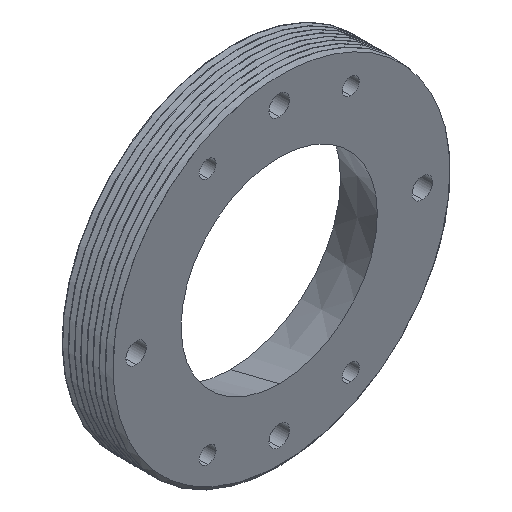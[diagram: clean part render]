
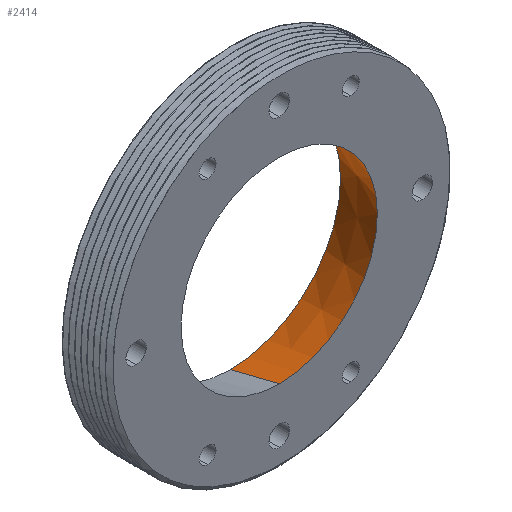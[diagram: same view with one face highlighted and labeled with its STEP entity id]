
A CAD part, isometric view. The second image highlights one B-rep face of the part: STEP entity #2414.
In plain terms, the highlighted conical face has half-angle 14.036 degrees and reference radius 13.5 mm.
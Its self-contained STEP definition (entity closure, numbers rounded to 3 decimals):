
#65 = EDGE_LOOP ( 'NONE', ( #972, #2071, #806, #2118 ) ) ;
#121 = CARTESIAN_POINT ( 'NONE',  ( 0., 0., -12. ) ) ;
#249 = AXIS2_PLACEMENT_3D ( 'NONE', #2249, #1087, #1675 ) ;
#294 = CARTESIAN_POINT ( 'NONE',  ( 0., 0., 12. ) ) ;
#321 = EDGE_CURVE ( 'NONE', #1585, #998, #1230, .T. ) ;
#496 = DIRECTION ( 'NONE',  ( 0., -1., 0. ) ) ;
#806 = ORIENTED_EDGE ( 'NONE', *, *, #2034, .T. ) ;
#873 = CARTESIAN_POINT ( 'NONE',  ( 0., 0., 0. ) ) ;
#969 = VECTOR ( 'NONE', #2105, 1000. ) ;
#972 = ORIENTED_EDGE ( 'NONE', *, *, #321, .F. ) ;
#979 = CIRCLE ( 'NONE', #2441, 12. ) ;
#998 = VERTEX_POINT ( 'NONE', #1017 ) ;
#1005 = DIRECTION ( 'NONE',  ( 0., -1., 0. ) ) ;
#1017 = CARTESIAN_POINT ( 'NONE',  ( 0., 6., -13.5 ) ) ;
#1087 = DIRECTION ( 'NONE',  ( 0., 1., 0. ) ) ;
#1230 = LINE ( 'NONE', #1680, #969 ) ;
#1514 = VERTEX_POINT ( 'NONE', #294 ) ;
#1553 = CARTESIAN_POINT ( 'NONE',  ( 0., 6., 13.5 ) ) ;
#1585 = VERTEX_POINT ( 'NONE', #121 ) ;
#1636 = CARTESIAN_POINT ( 'NONE',  ( 0., 6., 13.5 ) ) ;
#1641 = LINE ( 'NONE', #1553, #1829 ) ;
#1675 = DIRECTION ( 'NONE',  ( 0., 0., 1. ) ) ;
#1680 = CARTESIAN_POINT ( 'NONE',  ( 0., 6., -13.5 ) ) ;
#1718 = DIRECTION ( 'NONE',  ( 0., 0., -1. ) ) ;
#1746 = DIRECTION ( 'NONE',  ( 0., 0.97, 0.243 ) ) ;
#1790 = EDGE_CURVE ( 'NONE', #998, #2314, #2647, .T. ) ;
#1800 = CARTESIAN_POINT ( 'NONE',  ( 0., 6., 0. ) ) ;
#1829 = VECTOR ( 'NONE', #1746, 1000. ) ;
#1853 = AXIS2_PLACEMENT_3D ( 'NONE', #1800, #1005, #2419 ) ;
#2034 = EDGE_CURVE ( 'NONE', #1514, #2314, #1641, .T. ) ;
#2071 = ORIENTED_EDGE ( 'NONE', *, *, #2588, .T. ) ;
#2105 = DIRECTION ( 'NONE',  ( 0., 0.97, -0.243 ) ) ;
#2118 = ORIENTED_EDGE ( 'NONE', *, *, #1790, .F. ) ;
#2249 = CARTESIAN_POINT ( 'NONE',  ( 0., 6., 0. ) ) ;
#2297 = FACE_OUTER_BOUND ( 'NONE', #65, .T. ) ;
#2314 = VERTEX_POINT ( 'NONE', #1636 ) ;
#2414 = ADVANCED_FACE ( 'NONE', ( #2297 ), #2438, .F. ) ;
#2419 = DIRECTION ( 'NONE',  ( 0., 0., -1. ) ) ;
#2438 = CONICAL_SURFACE ( 'NONE', #249, 13.5, 0.245 ) ;
#2441 = AXIS2_PLACEMENT_3D ( 'NONE', #873, #496, #1718 ) ;
#2588 = EDGE_CURVE ( 'NONE', #1585, #1514, #979, .T. ) ;
#2647 = CIRCLE ( 'NONE', #1853, 13.5 ) ;
